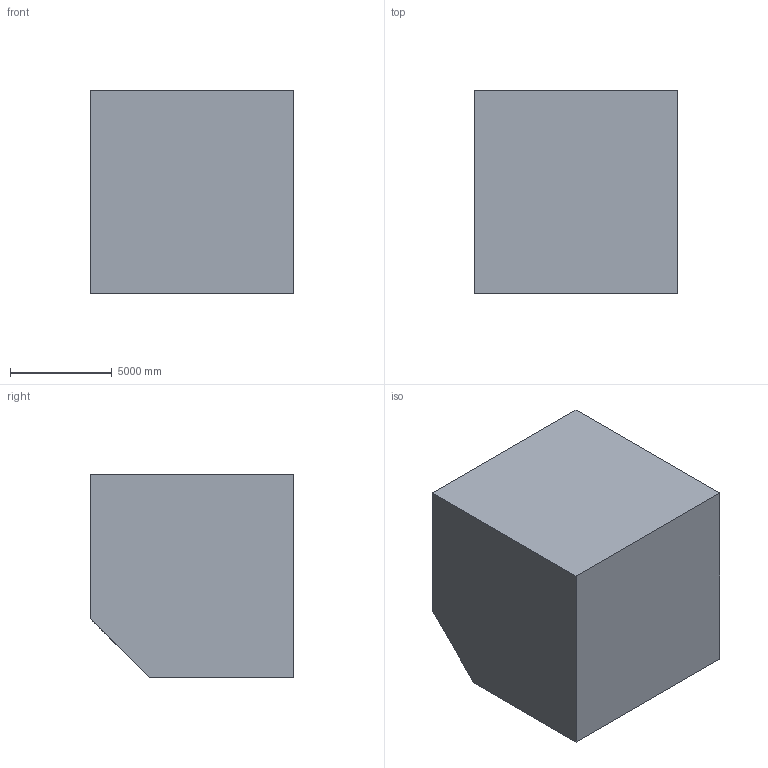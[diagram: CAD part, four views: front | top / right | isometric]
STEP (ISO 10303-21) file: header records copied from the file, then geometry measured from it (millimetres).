
FILE_DESCRIPTION (( 'STEP AP203' ), '1' );
FILE_NAME ('1031.STEP', '2022-08-18T12:29:26', ( 'user' ), ( '' ), 'SwSTEP 2.0', 'SolidWorks 2021', '' );
FILE_SCHEMA (( 'CONFIG_CONTROL_DESIGN' ));
Length unit declared in the file: centimetre
Products named in the file (1): 1031
Bounding box: 10000 x 10000 x 10000 mm (x, y, z)
Volume: 935011809064.2 mm3; surface area: 598964077.9 mm2
Topology: 1 solids, 1 shells, 13 faces, 33 edges, 22 vertices
Faces by surface type: plane 11, cylinder 2
Entity records: 468 total; most frequent: CARTESIAN_POINT 75, ORIENTED_EDGE 66, DIRECTION 63, EDGE_CURVE 33, VECTOR 27, LINE 27, VERTEX_POINT 22, AXIS2_PLACEMENT_3D 18
